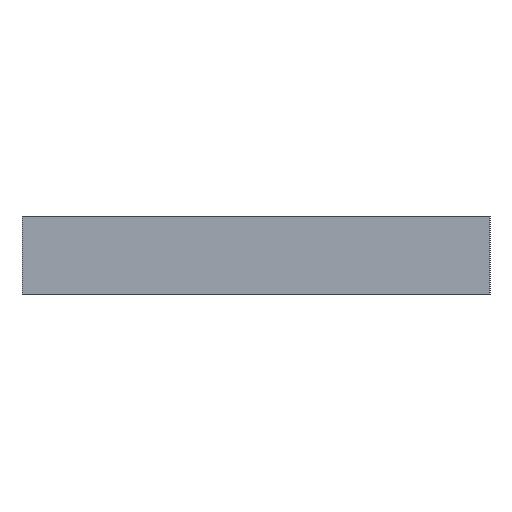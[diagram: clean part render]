
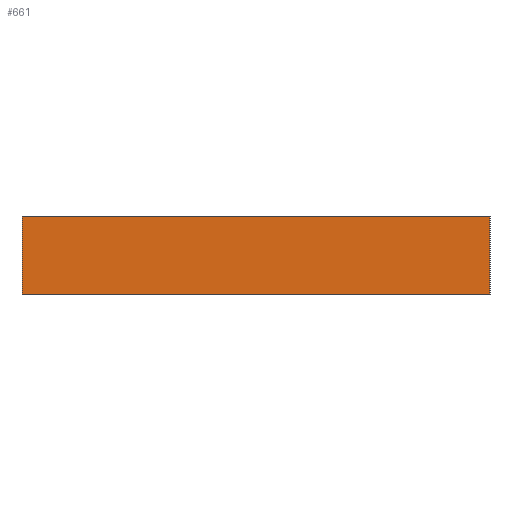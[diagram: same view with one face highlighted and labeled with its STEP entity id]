
A CAD part, left-side view. The second image highlights one B-rep face of the part: STEP entity #661.
In plain terms, the highlighted free-form (B-spline) face has degree [1, 1] with [2, 2] control points.
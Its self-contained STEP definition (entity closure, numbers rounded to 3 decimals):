
#196=CARTESIAN_POINT(' ',(-1500.,225.,0.));
#197=VERTEX_POINT(' ',#196);
#211=CARTESIAN_POINT(' ',(-1500.,225.,0.));
#216=DIRECTION(' ',(0.,-1.,0.));
#221=VECTOR(' ',#216,1.);
#226=LINE('',#211,#221);
#231=CARTESIAN_POINT(' ',(-1500.,-225.,0.));
#232=VERTEX_POINT(' ',#231);
#236=EDGE_CURVE(' ',#197,#232,#226,.T.);
#491=CARTESIAN_POINT(' ',(-1500.,225.,75.));
#492=VERTEX_POINT(' ',#491);
#506=CARTESIAN_POINT(' ',(-1500.,225.,75.));
#511=DIRECTION(' ',(0.,0.,-1.));
#516=VECTOR(' ',#511,1.);
#521=LINE('',#506,#516);
#526=EDGE_CURVE(' ',#492,#197,#521,.T.);
#551=CARTESIAN_POINT(' ',(-1500.,-225.,0.));
#556=CARTESIAN_POINT(' ',(-1500.,-225.,75.));
#561=CARTESIAN_POINT(' ',(-1500.,225.,0.));
#566=CARTESIAN_POINT(' ',(-1500.,225.,75.));
#571=B_SPLINE_SURFACE_WITH_KNOTS(' ',1,1,((#551,#556),(#561,#566)),.UNSPECIFIED.,.F.,.F.,.U.,(2,2),(2,2),(0.,1.),(0.,1.),.UNSPECIFIED.);
#576=ORIENTED_EDGE(' ',*,*,#236,.F.);
#581=ORIENTED_EDGE(' ',*,*,#526,.F.);
#586=CARTESIAN_POINT(' ',(-1500.,225.,75.));
#591=DIRECTION(' ',(0.,-1.,0.));
#596=VECTOR(' ',#591,1.);
#601=LINE('',#586,#596);
#606=CARTESIAN_POINT(' ',(-1500.,-225.,75.));
#607=VERTEX_POINT(' ',#606);
#611=EDGE_CURVE(' ',#492,#607,#601,.T.);
#616=ORIENTED_EDGE(' ',*,*,#611,.T.);
#621=CARTESIAN_POINT(' ',(-1500.,-225.,75.));
#626=DIRECTION(' ',(0.,0.,-1.));
#631=VECTOR(' ',#626,1.);
#636=LINE('',#621,#631);
#641=EDGE_CURVE(' ',#607,#232,#636,.T.);
#646=ORIENTED_EDGE(' ',*,*,#641,.T.);
#651=EDGE_LOOP(' ',(#576,#581,#616,#646));
#656=FACE_OUTER_BOUND(' ',#651,.T.);
#661=ADVANCED_FACE('',(#656),#571,.T.);
